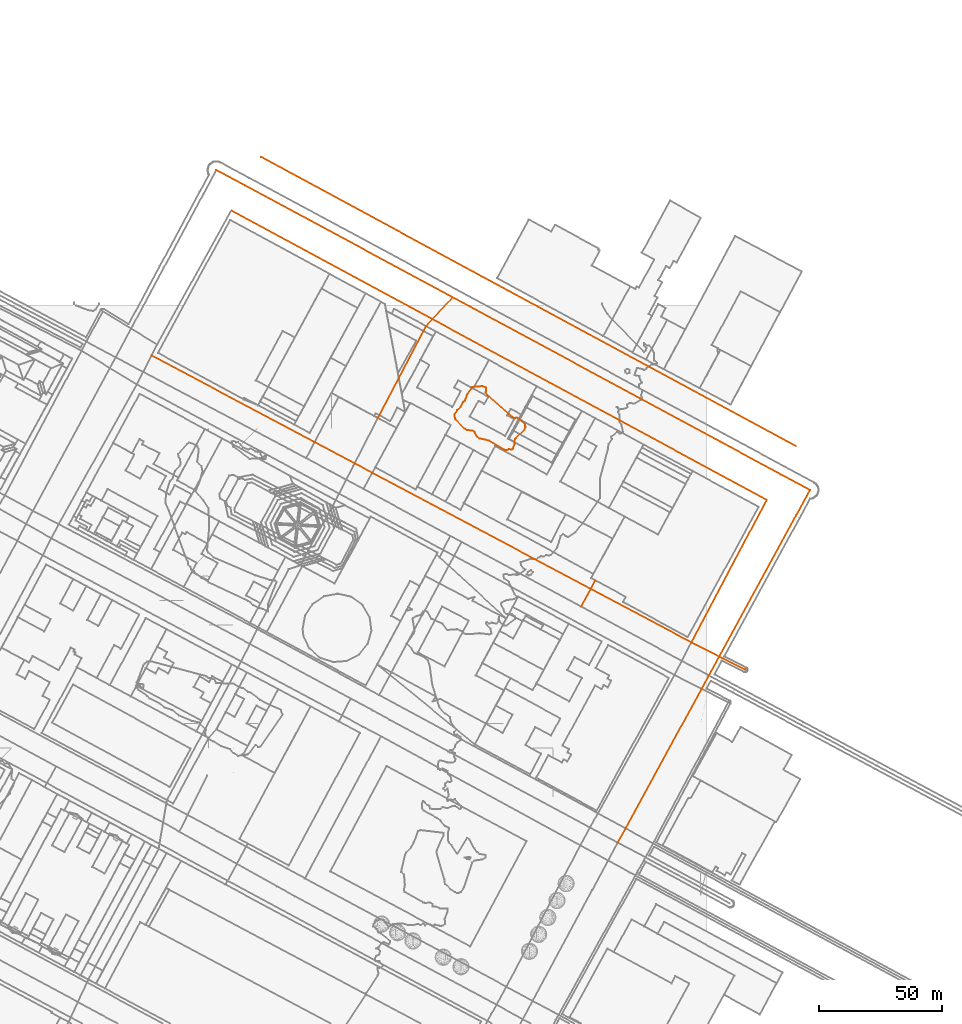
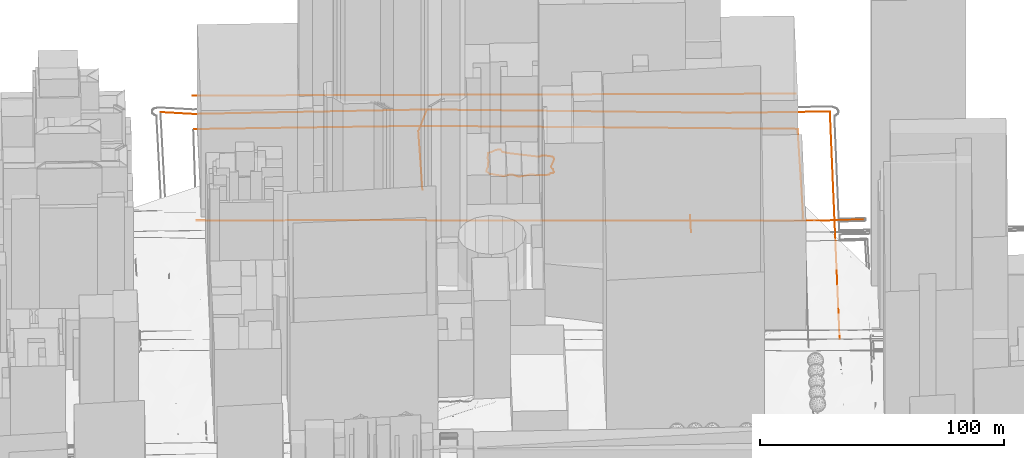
# Not in any storey, part 72 of 80: 10 civil elements, 1 geographic element.
"""IFC4 model written with IfcOpenShell, lengths in metres."""

from ifc_helpers import new_model, entity, si_unit, frame, origin_with_axes, place, context, subcontext, project, spatial, element, save


model = new_model("IFC4")

# Units and contexts
model_context = context("Model", 3, precision=1e-05, world=origin_with_axes())
body_context = subcontext(model_context, "Body", "Model", "MODEL_VIEW")
ifc_project = project(units=[si_unit("AREAUNIT", "SQUARE_METRE"), si_unit("LENGTHUNIT", "METRE")], contexts=[model_context])

# Sites
site_1_placement = place(None, origin_with_axes())
site_1 = spatial("IfcSite", under=ifc_project, at=site_1_placement, Name="Topoexport Site")
site_2_placement = place(site_1_placement, origin_with_axes())
site_2 = spatial("IfcSite", under=site_1, at=site_2_placement, Name="TPX_ROUTES")

# Civil elements
civil_element_1_placement = place(site_2_placement, frame((258.4655017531, 370.9871293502, 22.6374921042), z_axis=(0.0, 0.0, 1.0), x_axis=(1.0, 0.0, 0.0)))
element("IfcCivilElement", 1, at=civil_element_1_placement, inside=site_2, Name="Route 3", ObjectType="ROAD", context=body_context, shape_type="GeometricCurveSet", body=[
    entity("IfcGeometricCurveSet", [entity("IfcIndexedPolyCurve", entity("IfcCartesianPointList3D", [[10.8372056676, 11.7279777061, -0.1635695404], [2.592595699, 2.8057343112, -0.0503085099], [0.0, 0.0, 0.0]]))]),
])
civil_element_2_placement = place(site_2_placement, frame((238.8685951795, 333.6553643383, 22.855919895), z_axis=(0.0, 0.0, 1.0), x_axis=(1.0, 0.0, 0.0)))
element("IfcCivilElement", 2, at=civil_element_2_placement, inside=site_2, Name="Route 4", ObjectType="ROAD", context=body_context, shape_type="GeometricCurveSet", body=[
    entity("IfcGeometricCurveSet", [entity("IfcIndexedPolyCurve", entity("IfcCartesianPointList3D", [[19.5969065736, 37.3317650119, -0.2184277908], [0.0, 0.0, 0.0]]))]),
])
civil_element_3_placement = place(site_2_placement, frame((321.5409650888, 257.0016890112, 19.0469377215), z_axis=(0.0, 0.0, 1.0), x_axis=(1.0, 0.0, 0.0)))
element("IfcCivilElement", 3, at=civil_element_3_placement, inside=site_2, Name="Route 16", ObjectType="ROAD", context=body_context, shape_type="GeometricCurveSet", body=[
    entity("IfcGeometricCurveSet", [entity("IfcIndexedPolyCurve", entity("IfcCartesianPointList3D", [[0.0, 0.0, 0.0], [3.8413572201, 7.2056906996, 0.0365889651], [5.6917771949, 10.6800427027, 0.0703566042]]))]),
])
civil_element_4_placement = place(site_2_placement, frame((191.4015903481, 439.7627027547, 22.0768114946), z_axis=(0.0, 0.0, 1.0), x_axis=(1.0, 0.0, 0.0)))
element("IfcCivilElement", 4, at=civil_element_4_placement, inside=site_2, Name="Route 19", ObjectType="ROAD", context=body_context, shape_type="GeometricCurveSet", body=[
    entity("IfcGeometricCurveSet", [entity("IfcIndexedPolyCurve", entity("IfcCartesianPointList3D", [[217.4069610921, -117.5843163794, -3.8241281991], [0.0, 0.0, 0.0]]))]),
])
civil_element_5_placement = place(site_2_placement, frame((366.280947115, 242.4792324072, 18.0250641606), z_axis=(0.0, 0.0, 1.0), x_axis=(1.0, 0.0, 0.0)))
element("IfcCivilElement", 5, at=civil_element_5_placement, inside=site_2, Name="Route 20", ObjectType="ROAD", context=body_context, shape_type="GeometricCurveSet", body=[
    entity("IfcGeometricCurveSet", [entity("IfcIndexedPolyCurve", entity("IfcCartesianPointList3D", [[0.0, 0.0, 0.0], [30.6262347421, 57.8888119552, 0.0389345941]]))]),
])
civil_element_6_placement = place(site_2_placement, frame((179.2712645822, 418.0055676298, 22.8208844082), z_axis=(0.0, 0.0, 1.0), x_axis=(1.0, 0.0, 0.0)))
element("IfcCivilElement", 6, at=civil_element_6_placement, inside=site_2, Name="Route 21", ObjectType="ROAD", context=body_context, shape_type="GeometricCurveSet", body=[
    entity("IfcGeometricCurveSet", [entity("IfcIndexedPolyCurve", entity("IfcCartesianPointList3D", [[0.0, 0.0, 0.0], [81.78683287, -44.2127039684, -0.2337008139], [217.635917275, -117.6375232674, -4.7568856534]]))]),
])
civil_element_7_placement = place(site_2_placement, frame((366.280947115, 242.4792324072, 18.0250641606), z_axis=(0.0, 0.0, 1.0), x_axis=(1.0, 0.0, 0.0)))
element("IfcCivilElement", 7, at=civil_element_7_placement, inside=site_2, Name="Route 23", ObjectType="ROAD", context=body_context, shape_type="GeometricCurveSet", body=[
    entity("IfcGeometricCurveSet", [entity("IfcIndexedPolyCurve", entity("IfcCartesianPointList3D", [[0.0, 0.0, 0.0], [11.328184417, -5.7744166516, -0.2701191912], [21.8243194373, -11.136626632, -0.3050613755]]))]),
])
civil_element_8_placement = place(site_2_placement, frame((336.3839471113, 161.0733675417, 18.4356480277), z_axis=(0.0, 0.0, 1.0), x_axis=(1.0, 0.0, 0.0)))
element("IfcCivilElement", 8, at=civil_element_8_placement, inside=site_2, Name="Route 31", ObjectType="ROAD", context=body_context, shape_type="GeometricCurveSet", body=[
    entity("IfcGeometricCurveSet", [entity("IfcIndexedPolyCurve", entity("IfcCartesianPointList3D", [[0.0, 0.0, 0.0], [3.1489519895, 5.7765427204, -0.0859678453], [34.0512175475, 62.4804967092, -0.5311086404], [37.026748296, 67.9219674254, -0.5425779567], [41.2251844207, 75.6314482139, -0.6807030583], [72.4163071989, 132.8496545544, -0.4193810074], [78.102336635, 143.285452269, -0.3038014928]]))]),
])
civil_element_9_placement = place(site_2_placement, frame((146.9088872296, 359.0538889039, 24.2267984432), z_axis=(0.0, 0.0, 1.0), x_axis=(1.0, 0.0, 0.0)))
element("IfcCivilElement", 9, at=civil_element_9_placement, inside=site_2, Name="Route 75", ObjectType="ROAD", context=body_context, shape_type="GeometricCurveSet", body=[
    entity("IfcGeometricCurveSet", [entity("IfcIndexedPolyCurve", entity("IfcCartesianPointList3D", [[219.3720598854, -116.5746564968, -6.2017342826], [178.4734350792, -94.8465091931, -5.1432717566], [89.7033202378, -47.6737021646, -2.5295176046], [82.5004248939, -43.8383942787, -2.2163397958], [66.2686496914, -35.2119959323, -1.6929455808], [0.0, 0.0, 0.0]]))]),
])
civil_element_10_placement = place(site_2_placement, frame((173.2388175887, 434.4444962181, 23.4416429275), z_axis=(0.0, 0.0, 1.0), x_axis=(1.0, 0.0, 0.0)))
element("IfcCivilElement", 10, at=civil_element_10_placement, inside=site_2, Name="Route 76", ObjectType="ROAD", context=body_context, shape_type="GeometricCurveSet", body=[
    entity("IfcGeometricCurveSet", [entity("IfcIndexedPolyCurve", entity("IfcCartesianPointList3D", [[241.2474661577, -130.0856764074, -5.3097963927], [229.3546636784, -123.6628648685, -5.2241039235], [204.6943464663, -110.3610833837, -5.1295649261], [96.0638898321, -51.7293891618, -0.9677203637], [11.6967282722, -6.2922227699, -1.1985154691], [0.0, 0.0, 0.0]]))]),
])

# Site
site_3_placement = place(site_1_placement, origin_with_axes())
site_3 = spatial("IfcSite", under=site_1, at=site_3_placement, Name="TPX_CONTOURS")

# Geographic element
geographic_element_placement = place(site_3_placement, frame((270.0098232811, 335.0447113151, 20.0), z_axis=(0.0, 0.0, 1.0), x_axis=(1.0, 0.0, 0.0)))
element("IfcGeographicElement", 11, at=geographic_element_placement, inside=site_3, Name="Contour 20.0 m", PredefinedType="NOTDEFINED", context=body_context, shape_type="GeometricCurveSet", body=[
    entity("IfcGeometricCurveSet", [entity("IfcIndexedPolyCurve", entity("IfcCartesianPointList3D", [[23.1816794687, -14.2853681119, 0.0], [23.6816079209, -14.0, 0.0], [24.4317271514, -12.0, 0.0], [24.581999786, -10.0, 0.0], [28.4543909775, -6.0, 0.0], [28.8483779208, -5.0, 0.0], [28.6818066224, -4.0, 0.0], [26.1816794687, -1.666486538, 0.0], [25.1816794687, -1.249910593, 0.0], [24.1816794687, -1.3998245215, 0.0], [23.1816794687, -0.749755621, 0.0], [14.1816794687, 7.250244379, 0.0], [12.7651863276, 9.0, 0.0], [12.909042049, 11.0, 0.0], [11.1816794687, 11.5600732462, 0.0], [7.1816794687, 11.2221857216, 0.0], [5.1816794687, 8.1427539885, 0.0], [4.1816794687, 5.5000190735, 0.0], [3.4674910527, 5.0, 0.0], [2.4316874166, 3.0, 0.0], [1.1816794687, 1.8570805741, 0.0], [0.0, 0.0, 0.0], [0.4126857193, -2.0, 0.0], [4.1816794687, -5.7671849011, 0.0], [5.1816794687, -6.2818577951, 0.0], [7.1816794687, -6.4799033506, 0.0], [8.2283831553, -7.0, 0.0], [9.1508636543, -9.0, 0.0], [10.1816794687, -9.6718954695, 0.0], [14.1816794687, -10.6201079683, 0.0], [20.1816794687, -14.2818809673, 0.0], [21.1816794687, -14.4221340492, 0.0], [22.1816794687, -14.0344380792, 0.0], [23.1816794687, -14.2853681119, 0.0]]))]),
])

save(model, "model.ifc")
